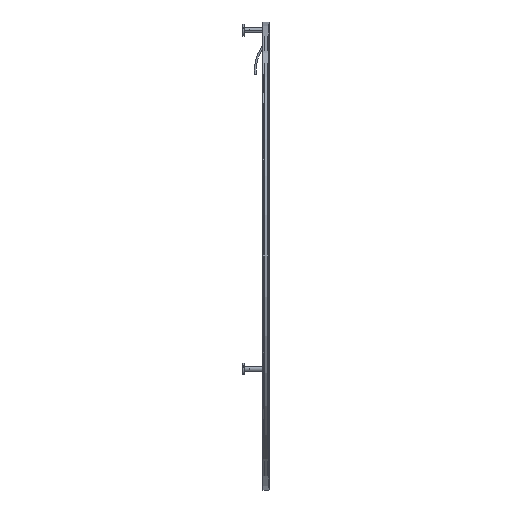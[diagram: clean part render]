
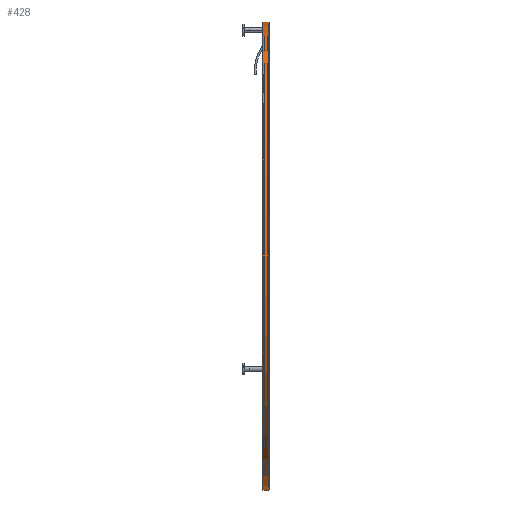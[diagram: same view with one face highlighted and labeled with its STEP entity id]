
A CAD part, left-side view. The second image highlights one B-rep face of the part: STEP entity #428.
In plain terms, the highlighted cylindrical face has radius 900 mm (diameter 1800 mm), a partial arc.
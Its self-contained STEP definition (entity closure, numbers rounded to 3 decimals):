
#51 = DIRECTION ( 'NONE',  ( 0., 0., -1. ) ) ;
#154 = CARTESIAN_POINT ( 'NONE',  ( 0., 12.2, -900. ) ) ;
#160 = CARTESIAN_POINT ( 'NONE',  ( 0., 0., -900. ) ) ;
#428 = ADVANCED_FACE ( 'NONE', ( #7164 ), #4235, .T. ) ;
#488 = CARTESIAN_POINT ( 'NONE',  ( 0., -10.2, 0. ) ) ;
#550 = EDGE_CURVE ( 'NONE', #14336, #3786, #15329, .T. ) ;
#1370 = CIRCLE ( 'NONE', #7013, 900. ) ;
#1832 = DIRECTION ( 'NONE',  ( 0., -1., 0. ) ) ;
#2971 = LINE ( 'NONE', #16453, #12469 ) ;
#3008 = DIRECTION ( 'NONE',  ( 0., -1., 0. ) ) ;
#3584 = CARTESIAN_POINT ( 'NONE',  ( 0., 12.2, 900. ) ) ;
#3786 = VERTEX_POINT ( 'NONE', #5340 ) ;
#4054 = CARTESIAN_POINT ( 'NONE',  ( 0., -10.2, 900. ) ) ;
#4121 = ORIENTED_EDGE ( 'NONE', *, *, #550, .F. ) ;
#4235 = CYLINDRICAL_SURFACE ( 'NONE', #14747, 900. ) ;
#4325 = DIRECTION ( 'NONE',  ( 0., 0., -1. ) ) ;
#4590 = EDGE_CURVE ( 'NONE', #17100, #5047, #2971, .T. ) ;
#5047 = VERTEX_POINT ( 'NONE', #4054 ) ;
#5340 = CARTESIAN_POINT ( 'NONE',  ( 0., -10.2, -900. ) ) ;
#6781 = CARTESIAN_POINT ( 'NONE',  ( 0., 12.2, 0. ) ) ;
#7013 = AXIS2_PLACEMENT_3D ( 'NONE', #6781, #9442, #51 ) ;
#7164 = FACE_OUTER_BOUND ( 'NONE', #7442, .T. ) ;
#7351 = ORIENTED_EDGE ( 'NONE', *, *, #9304, .F. ) ;
#7442 = EDGE_LOOP ( 'NONE', ( #10206, #9171, #7351, #4121 ) ) ;
#8153 = EDGE_CURVE ( 'NONE', #14336, #17100, #1370, .T. ) ;
#8271 = DIRECTION ( 'NONE',  ( 0., -1., 0. ) ) ;
#8547 = DIRECTION ( 'NONE',  ( 0., 0., -1. ) ) ;
#8777 = VECTOR ( 'NONE', #9642, 1000. ) ;
#9171 = ORIENTED_EDGE ( 'NONE', *, *, #4590, .T. ) ;
#9304 = EDGE_CURVE ( 'NONE', #3786, #5047, #12145, .T. ) ;
#9442 = DIRECTION ( 'NONE',  ( 0., -1., 0. ) ) ;
#9642 = DIRECTION ( 'NONE',  ( 0., -1., 0. ) ) ;
#9807 = CARTESIAN_POINT ( 'NONE',  ( 0., 0., 0. ) ) ;
#10206 = ORIENTED_EDGE ( 'NONE', *, *, #8153, .T. ) ;
#12145 = CIRCLE ( 'NONE', #14685, 900. ) ;
#12469 = VECTOR ( 'NONE', #8271, 1000. ) ;
#14336 = VERTEX_POINT ( 'NONE', #154 ) ;
#14685 = AXIS2_PLACEMENT_3D ( 'NONE', #488, #1832, #8547 ) ;
#14747 = AXIS2_PLACEMENT_3D ( 'NONE', #9807, #3008, #4325 ) ;
#15329 = LINE ( 'NONE', #160, #8777 ) ;
#16453 = CARTESIAN_POINT ( 'NONE',  ( 0., 0., 900. ) ) ;
#17100 = VERTEX_POINT ( 'NONE', #3584 ) ;
